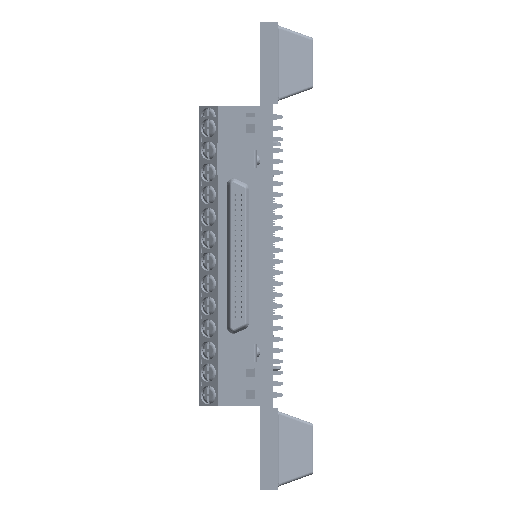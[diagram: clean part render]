
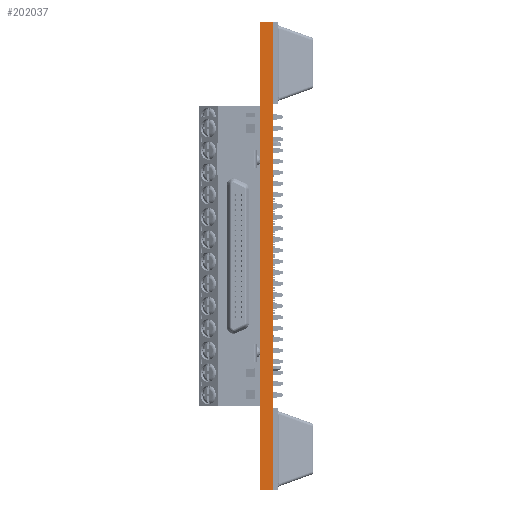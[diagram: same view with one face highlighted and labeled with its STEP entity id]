
A CAD part, left-side view. The second image highlights one B-rep face of the part: STEP entity #202037.
In plain terms, the highlighted planar face has unit normal (-1, 0, 0).
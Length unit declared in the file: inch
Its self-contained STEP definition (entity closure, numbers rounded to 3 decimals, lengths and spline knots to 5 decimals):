
#7721 = CARTESIAN_POINT ( 'NONE',  ( 15.525, -0.079, -11.125 ) ) ;
#18456 = CARTESIAN_POINT ( 'NONE',  ( 15.525, -0.079, -11.125 ) ) ;
#55942 = VECTOR ( 'NONE', #244031, 39.37008 ) ;
#61507 = DIRECTION ( 'NONE',  ( 0., 1., 0. ) ) ;
#84399 = AXIS2_PLACEMENT_3D ( 'NONE', #157591, #341837, #234746 ) ;
#85442 = VECTOR ( 'NONE', #61507, 39.37008 ) ;
#86688 = EDGE_CURVE ( 'NONE', #136678, #107692, #247132, .T. ) ;
#104441 = CARTESIAN_POINT ( 'NONE',  ( 15.525, 0., -11.125 ) ) ;
#107692 = VERTEX_POINT ( 'NONE', #149349 ) ;
#119311 = EDGE_LOOP ( 'NONE', ( #216863, #292575, #169972, #207860 ) ) ;
#130295 = LINE ( 'NONE', #7721, #55942 ) ;
#131768 = EDGE_CURVE ( 'NONE', #319981, #136678, #159794, .T. ) ;
#133758 = CARTESIAN_POINT ( 'NONE',  ( 15.525, 0., -14.025 ) ) ;
#135134 = EDGE_CURVE ( 'NONE', #319981, #340480, #130295, .T. ) ;
#136678 = VERTEX_POINT ( 'NONE', #133758 ) ;
#147058 = CARTESIAN_POINT ( 'NONE',  ( 15.525, -0.079, -14.025 ) ) ;
#149349 = CARTESIAN_POINT ( 'NONE',  ( 15.525, 0., -11.125 ) ) ;
#157591 = CARTESIAN_POINT ( 'NONE',  ( 15.525, -0.079, -11.125 ) ) ;
#159794 = LINE ( 'NONE', #166627, #85442 ) ;
#166627 = CARTESIAN_POINT ( 'NONE',  ( 15.525, -0.079, -14.025 ) ) ;
#169972 = ORIENTED_EDGE ( 'NONE', *, *, #135134, .T. ) ;
#199785 = CARTESIAN_POINT ( 'NONE',  ( 15.525, -0.079, -11.125 ) ) ;
#202037 = ADVANCED_FACE ( 'NONE', ( #314778 ), #291248, .T. ) ;
#207860 = ORIENTED_EDGE ( 'NONE', *, *, #225958, .T. ) ;
#210081 = LINE ( 'NONE', #199785, #284198 ) ;
#216863 = ORIENTED_EDGE ( 'NONE', *, *, #86688, .F. ) ;
#225958 = EDGE_CURVE ( 'NONE', #340480, #107692, #210081, .T. ) ;
#234746 = DIRECTION ( 'NONE',  ( 0., 0., 1. ) ) ;
#244031 = DIRECTION ( 'NONE',  ( 0., 0., 1. ) ) ;
#247132 = LINE ( 'NONE', #104441, #284278 ) ;
#263488 = DIRECTION ( 'NONE',  ( 0., 0., 1. ) ) ;
#284198 = VECTOR ( 'NONE', #302386, 39.37008 ) ;
#284278 = VECTOR ( 'NONE', #263488, 39.37008 ) ;
#291248 = PLANE ( 'NONE',  #84399 ) ;
#292575 = ORIENTED_EDGE ( 'NONE', *, *, #131768, .F. ) ;
#302386 = DIRECTION ( 'NONE',  ( 0., 1., 0. ) ) ;
#314778 = FACE_OUTER_BOUND ( 'NONE', #119311, .T. ) ;
#319981 = VERTEX_POINT ( 'NONE', #147058 ) ;
#340480 = VERTEX_POINT ( 'NONE', #18456 ) ;
#341837 = DIRECTION ( 'NONE',  ( -1., 0., 0. ) ) ;
